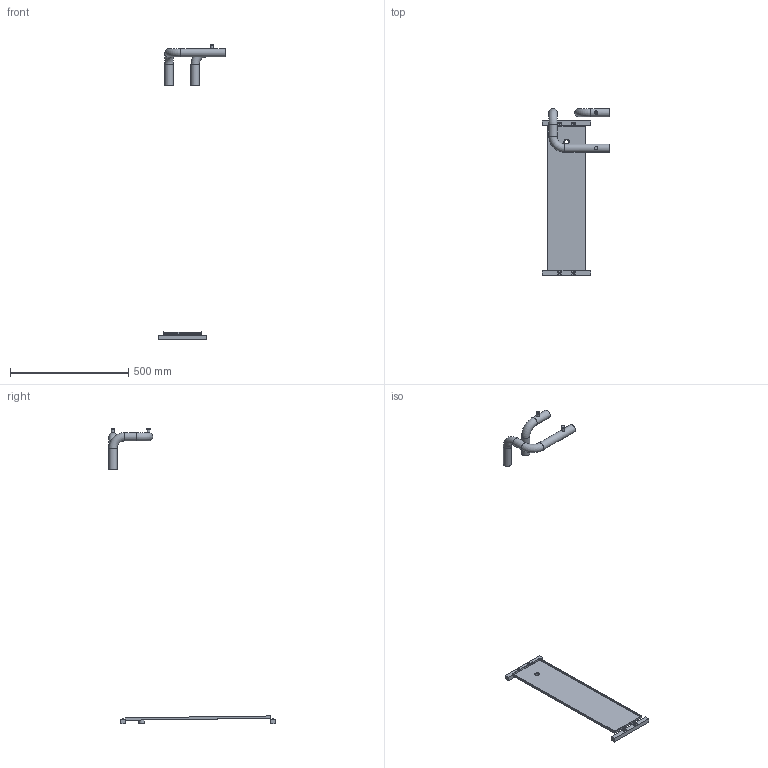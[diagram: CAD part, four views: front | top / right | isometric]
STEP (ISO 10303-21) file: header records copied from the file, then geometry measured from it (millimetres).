
FILE_DESCRIPTION(('Open CASCADE Model'),'2;1');
FILE_NAME('Open CASCADE Shape Model','2026-11-05T14:32:42',('Author'),( 'Open CASCADE'),'Open CASCADE STEP processor 7.9','Open CASCADE 7.9' ,'Unknown');
FILE_SCHEMA(('AUTOMOTIVE_DESIGN { 1 0 10303 214 1 1 1 1 }'));
Length unit declared in the file: millimetre
Products named in the file (17): C05_REPLACE_AND_ADD_LOCAL; BOTTOM_CROSS_41.775; BOTTOM_CROSS_673.775; W1_D35_END_PIPE; W2_D35_END_PIPE; C05_TRAY_TAB_NEAR_0; C05_TRAY_M4_ENVELOPE_NEAR_0; C05_TRAY_TAB_NEAR_1; C05_TRAY_M4_ENVELOPE_NEAR_1; C05_TRAY_TAB_FAR_0; C05_TRAY_M4_ENVELOPE_FAR_0; C05_TRAY_TAB_FAR_1; C05_TRAY_M4_ENVELOPE_FAR_1; C05_CORE_CARRIED_TRAY; C05_SHORT_DRAIN_SPIGOT; C05_W1_VENT_CLOSURE_ENVELOPE; C05_W2_VENT_CLOSURE_ENVELOPE
Assembly tree (16 placements, depth 2):
  C05_REPLACE_AND_ADD_LOCAL
    BOTTOM_CROSS_41.775
    BOTTOM_CROSS_673.775
    W1_D35_END_PIPE
    W2_D35_END_PIPE
    C05_TRAY_TAB_NEAR_0
    C05_TRAY_M4_ENVELOPE_NEAR_0
    C05_TRAY_TAB_NEAR_1
    C05_TRAY_M4_ENVELOPE_NEAR_1
    C05_TRAY_TAB_FAR_0
    C05_TRAY_M4_ENVELOPE_FAR_0
    C05_TRAY_TAB_FAR_1
    C05_TRAY_M4_ENVELOPE_FAR_1
    C05_CORE_CARRIED_TRAY
    C05_SHORT_DRAIN_SPIGOT
    C05_W1_VENT_CLOSURE_ENVELOPE
    C05_W2_VENT_CLOSURE_ENVELOPE
Bounding box: 283.5 x 702.58 x 1249 mm (x, y, z)
Volume: 578587 mm3; surface area: 415914.2 mm2
Topology: 16 solids, 16 shells, 127 faces, 246 edges, 158 vertices
Faces by surface type: plane 84, cylinder 37, torus 6
Full cylindrical faces by diameter (mm): 4 x6, 4.5 x8, 7 x4, 12 x4, 14 x2, 18 x2, 22 x1, 28 x5, 35 x5
Entity records: 8439 total; most frequent: CARTESIAN_POINT 2748, DIRECTION 1034, LINE 538, VECTOR 538, ORIENTED_EDGE 494, PCURVE 492, DEFINITIONAL_REPRESENTATION 492, EDGE_CURVE 246
